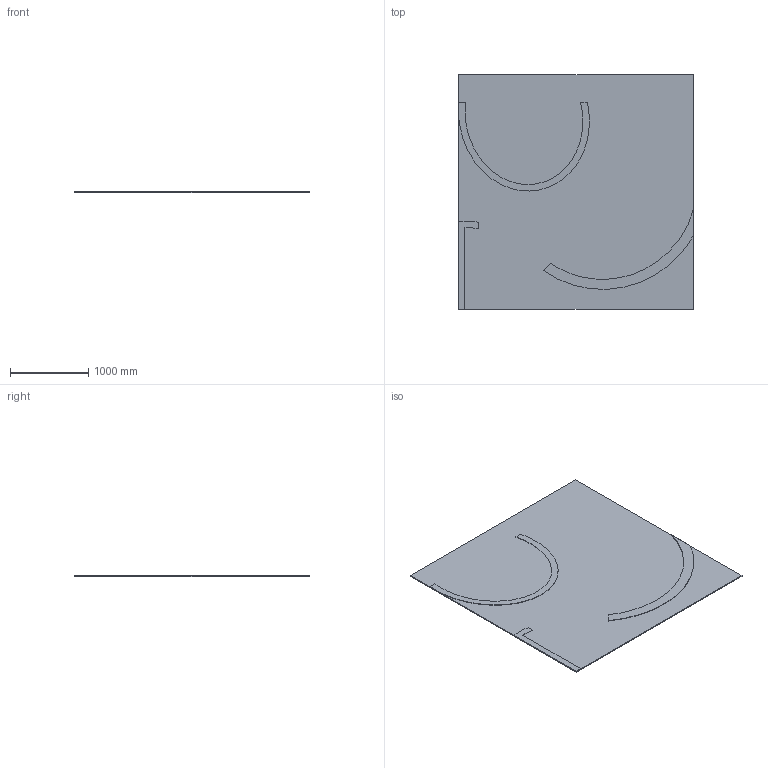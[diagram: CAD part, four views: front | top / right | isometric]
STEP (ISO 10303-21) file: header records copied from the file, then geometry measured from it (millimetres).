
FILE_DESCRIPTION(/* description */ (''),/* implementation_level */ '2;1');
FILE_NAME(/* name */ 'Faubourg_300x300_3D_20231017',/* time_stamp */ '2023-10-23T11:16:26+02:00',/* author */ (''),/* organization */ (''),/* preprocessor_version */ 'ST-DEVELOPER v16.5',/* originating_system */ 'Rhino 7.34',/* authorisation */ '');
FILE_SCHEMA (('CONFIG_CONTROL_DESIGN'));
Length unit declared in the file: millimetre
Products named in the file (1): Document
Bounding box: 3000 x 3000 x 17 mm (x, y, z)
Volume: 115735355 mm3; surface area: 19603894.2 mm2
Topology: 4 solids, 4 shells, 29 faces, 63 edges, 42 vertices
Faces by surface type: plane 21, bspline 8
Entity records: 1026 total; most frequent: CARTESIAN_POINT 491, ORIENTED_EDGE 126, EDGE_CURVE 63, B_SPLINE_CURVE_WITH_KNOTS 53, VERTEX_POINT 42, ADVANCED_FACE 29, FACE_OUTER_BOUND 29, EDGE_LOOP 29
